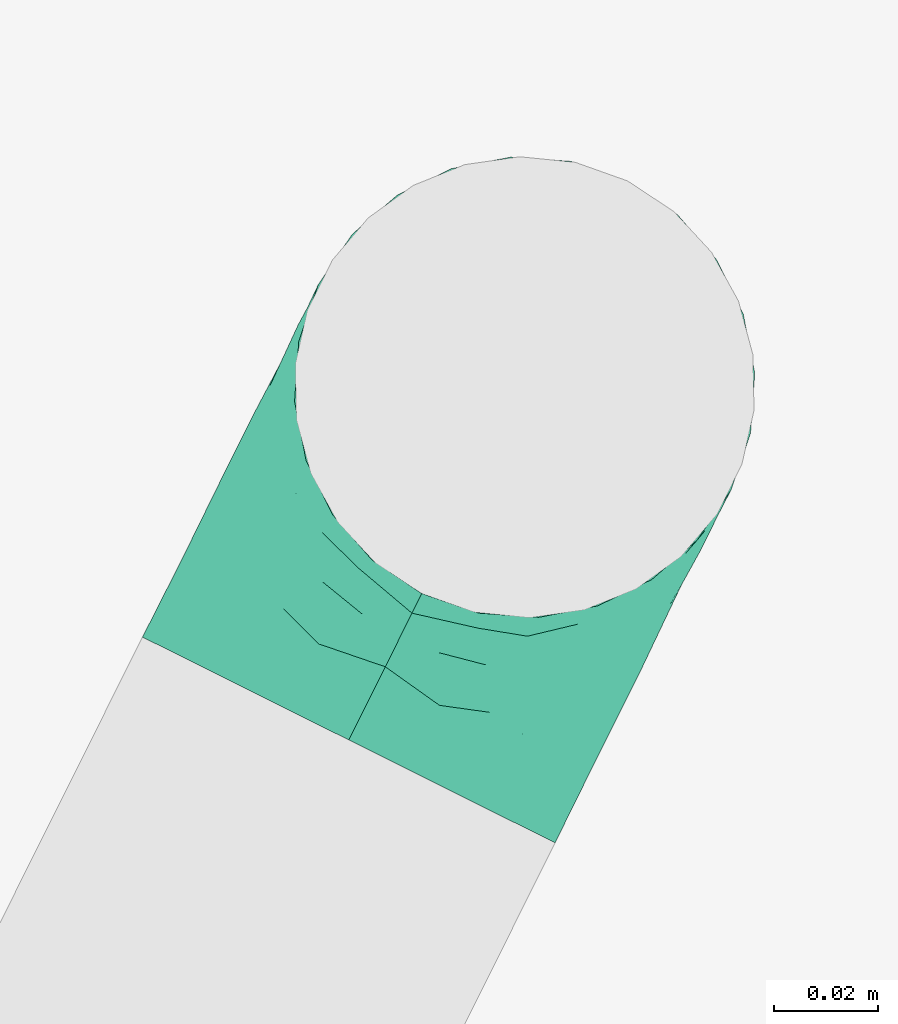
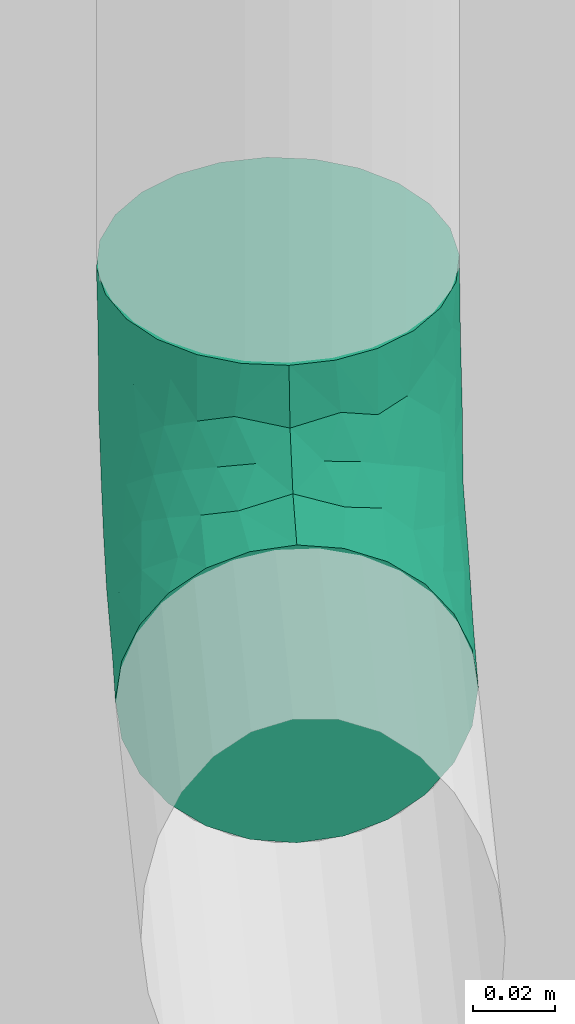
# One storey, part 36 of 47: 1 flow fitting.
"""IFC2X3 building model written with IfcOpenShell, lengths in metres."""

from ifc_helpers import new_model, entity, si_unit, converted_unit, derived_unit, direction, frame, origin, place, context, subcontext, project, spatial, faceted_brep, source, transform, mapped, type_object, type_shapes, element, save


model = new_model("IFC2X3")

# Units and contexts
model_context = context("Model", 3, precision=1e-05, world=origin(), true_north=direction((0.894925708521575, 0.446215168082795)))
context_of_model = context(None, 3, precision=1e-05, world=origin(), true_north=direction((0.894925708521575, 0.446215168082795)))
body_context = subcontext(model_context, "Body", "Model", "MODEL_VIEW")
ifc_project = project(units=[si_unit("LENGTHUNIT", "METRE"), si_unit("AREAUNIT", "SQUARE_METRE"), si_unit("VOLUMEUNIT", "CUBIC_METRE"), converted_unit("PLANEANGLEUNIT", "DEGREE", entity("IfcRatioMeasure", 0.0174532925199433), si_unit("PLANEANGLEUNIT", "RADIAN"), dimensions=[0, 0, 0, 0, 0, 0, 0]), si_unit("MASSUNIT", "GRAM", prefix="KILO"), si_unit("TIMEUNIT", "SECOND"), si_unit("FREQUENCYUNIT", "HERTZ"), si_unit("THERMODYNAMICTEMPERATUREUNIT", "DEGREE_CELSIUS"), derived_unit("THERMALTRANSMITTANCEUNIT", [(si_unit("MASSUNIT", "GRAM", prefix="KILO"), 1), (si_unit("THERMODYNAMICTEMPERATUREUNIT", "KELVIN"), -1), (si_unit("TIMEUNIT", "SECOND"), -3)]), derived_unit("VOLUMETRICFLOWRATEUNIT", [(si_unit("LENGTHUNIT", "METRE"), 3), (si_unit("TIMEUNIT", "SECOND"), -1)]), si_unit("ELECTRICCURRENTUNIT", "AMPERE"), si_unit("ELECTRICVOLTAGEUNIT", "VOLT"), si_unit("POWERUNIT", "WATT"), si_unit("FORCEUNIT", "NEWTON", prefix="KILO"), si_unit("ILLUMINANCEUNIT", "LUX"), si_unit("LUMINOUSFLUXUNIT", "LUMEN"), si_unit("LUMINOUSINTENSITYUNIT", "CANDELA"), si_unit("PRESSUREUNIT", "PASCAL")], contexts=[model_context, context_of_model])

# Site, building, storey
site_placement = place(None, frame((218.228324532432, 584.720189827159, 0.0), z_axis=(0.0, 0.0, 1.0), x_axis=(0.446215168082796, 0.894925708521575, 0.0)))
site = spatial("IfcSite", under=ifc_project, at=site_placement, Name="Default", CompositionType="ELEMENT")
building_placement = place(site_placement, origin())
building = spatial("IfcBuilding", under=site, at=building_placement, CompositionType="ELEMENT")
storey_placement = place(building_placement, frame((0.0, 0.0, 4.69)))
storey = spatial("IfcBuildingStorey", under=building, at=storey_placement, Name="1 - Piano Primo", CompositionType="ELEMENT", Elevation=4.69)

# Flow fitting
pipe_fitting_type = type_object("IfcPipeFittingType", Name="Standard", PredefinedType="NOTDEFINED")
shared_shape = source(origin(), body_context, "Body", "Brep", [
    faceted_brep([(-0.0759999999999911, 0.0222249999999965, -0.0384948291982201), (-0.0759999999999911, 0.0115045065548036, -0.0429354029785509), (-0.0759999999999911, 0.0, -0.0444500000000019), (-0.0759999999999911, -0.0115045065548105, -0.042935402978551), (-0.075999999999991, -0.0222250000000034, -0.0384948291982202), (-0.075999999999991, -0.0314308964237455, -0.031430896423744), (-0.075999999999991, -0.0384948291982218, -0.022225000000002), (-0.075999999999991, -0.0429354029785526, -0.011504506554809), (-0.075999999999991, -0.0444500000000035, 0.0), (-0.075999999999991, -0.0429354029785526, 0.011504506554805), (-0.075999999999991, -0.0384948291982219, 0.022224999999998), (-0.075999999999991, -0.0314308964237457, 0.0314308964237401), (-0.075999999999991, -0.0222250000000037, 0.0384948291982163), (-0.0759999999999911, -0.0115045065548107, 0.0429354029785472), (-0.0759999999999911, 0.0, 0.0444499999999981), (-0.0759999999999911, 0.0115045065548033, 0.0429354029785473), (-0.0759999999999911, 0.0222249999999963, 0.0384948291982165), (-0.0759999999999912, 0.0314308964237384, 0.0314308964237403), (-0.0759999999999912, 0.0384948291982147, 0.0222249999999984), (-0.0759999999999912, 0.0429354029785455, 0.0115045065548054), (-0.0759999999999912, 0.0444499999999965, 0.0), (-0.0759999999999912, 0.0429354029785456, -0.0115045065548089), (-0.0759999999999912, 0.0384948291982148, -0.0222250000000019), (-0.0759999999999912, 0.0314308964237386, -0.0314308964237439), (0.0, 0.0759999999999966, -0.0444500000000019), (-0.0115045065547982, 0.0759999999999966, -0.0429354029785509), (-0.0222249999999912, 0.0759999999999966, -0.0384948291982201), (-0.0314308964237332, 0.0759999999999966, -0.0314308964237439), (-0.0384948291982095, 0.0759999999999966, -0.0222250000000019), (-0.0429354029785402, 0.0759999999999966, -0.0115045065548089), (-0.0444499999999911, 0.0759999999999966, 0.0), (-0.0429354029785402, 0.0759999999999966, 0.0115045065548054), (-0.0384948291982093, 0.0759999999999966, 0.0222249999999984), (-0.031430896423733, 0.0759999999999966, 0.0314308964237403), (-0.0222249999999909, 0.0759999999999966, 0.0384948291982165), (-0.011504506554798, 0.0759999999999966, 0.0429354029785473), (0.0, 0.0759999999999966, 0.0444499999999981), (0.0115045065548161, 0.0759999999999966, 0.0429354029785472), (0.022225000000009, 0.0759999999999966, 0.0384948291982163), (0.031430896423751, 0.0759999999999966, 0.0314308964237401), (0.0384948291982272, 0.0759999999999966, 0.022224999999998), (0.042935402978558, 0.0759999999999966, 0.011504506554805), (0.0444500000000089, 0.0759999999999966, 0.0), (0.0429354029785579, 0.0759999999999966, -0.011504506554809), (0.0384948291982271, 0.0759999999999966, -0.022225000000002), (0.0314308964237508, 0.0759999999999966, -0.031430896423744), (0.0222250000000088, 0.0759999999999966, -0.0384948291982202), (0.0115045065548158, 0.0759999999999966, -0.042935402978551), (-0.055251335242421, -0.0350999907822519, 0.0246019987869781), (-0.0387789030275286, -0.0385547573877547, 0.0), (-0.0513960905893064, -0.0397481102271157, 0.0135506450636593), (-0.0541387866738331, -0.0409875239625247, 0.0), (0.0164280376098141, 0.018681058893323, 0.0300447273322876), (0.0133440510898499, 0.00595972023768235, 0.0238254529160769), (0.0227502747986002, 0.0181678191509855, 0.0223222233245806), (-0.0566160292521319, 0.00529376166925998, 0.0443688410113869), (-0.0518504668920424, 0.0178853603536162, 0.0424858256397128), (-0.0658426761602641, 0.0162370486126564, 0.0417044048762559), (0.00670599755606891, 0.0058076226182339, 0.0303487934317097), (0.00217280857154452, -0.00488037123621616, 0.0253915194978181), (0.0217662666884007, 0.0334721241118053, 0.0322256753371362), (0.0133779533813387, 0.0277507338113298, 0.0363591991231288), (-0.0489098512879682, -0.0265635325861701, 0.0327252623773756), (-0.0551815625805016, -0.0175181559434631, 0.0397928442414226), (-0.0321967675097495, -0.0350744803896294, 0.0096061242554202), (-0.0219900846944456, -0.0300004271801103, 0.0), (-0.0380359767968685, 0.0129504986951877, 0.0443849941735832), (-0.0499161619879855, 0.0304962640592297, 0.0376985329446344), (-0.0641975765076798, 0.0266916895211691, 0.0365481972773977), (-0.0267918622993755, 0.0407735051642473, 0.0416664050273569), (-0.0178853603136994, 0.0518504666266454, 0.0424858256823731), (-0.0304962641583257, 0.0499161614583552, 0.0376985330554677), (-0.0162370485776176, 0.0658426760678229, 0.0417044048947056), (-0.00529376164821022, 0.0566160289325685, 0.0443688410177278), (-0.060002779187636, 0.0363683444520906, 0.0294868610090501), (-0.0571942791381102, -0.00652591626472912, 0.0436019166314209), (-0.0131742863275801, -0.0091104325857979, 0.0329931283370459), (-0.0104548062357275, -0.0146502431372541, 0.0262592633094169), (-0.0363683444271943, 0.060002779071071, 0.0294868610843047), (-0.0266916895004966, 0.0641975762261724, 0.036548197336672), (-0.0591167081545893, 0.0427163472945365, 0.0219026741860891), (-0.0130572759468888, 0.0374829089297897, 0.0443951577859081), (-0.0283996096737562, 0.02839960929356, 0.0435936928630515), (-0.0206947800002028, 0.0157137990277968, 0.0440684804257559), (-0.0622162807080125, 0.0455810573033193, 0.0126773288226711), (-0.0512634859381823, 0.0512634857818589, 0.0171284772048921), (-0.0440264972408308, 0.0440264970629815, 0.032066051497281), (-0.0427163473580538, 0.0591167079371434, 0.0219026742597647), (-0.0484175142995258, 0.0479614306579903, 0.0251239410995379), (0.0175181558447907, 0.0551815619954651, 0.0397928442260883), (0.0265635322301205, 0.0489098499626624, 0.0327252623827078), (-0.0531667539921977, 0.0531667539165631, 0.00808290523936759), (0.0397481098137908, 0.0513960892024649, 0.0135506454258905), (0.0350999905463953, 0.0552513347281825, 0.0246019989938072), (0.0300990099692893, 0.0319822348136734, 0.0215664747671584), (0.00652591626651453, 0.0571942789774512, 0.0436019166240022), (-0.0360375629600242, -0.00228367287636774, 0.0428291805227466), (0.0409875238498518, 0.0541387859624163, 0.0), (-0.00769711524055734, 0.023069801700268, 0.0432135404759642), (-0.0161281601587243, 0.00441100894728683, 0.0409345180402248), (-0.000438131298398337, 0.0181073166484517, 0.0400941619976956), (0.0300004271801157, 0.0219900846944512, 0.0), (0.0350744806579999, 0.0321967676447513, 0.00960612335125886), (0.0263186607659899, 0.0155052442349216, 0.0117666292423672), (-0.0291179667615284, -0.0225220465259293, 0.0296592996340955), (-0.0277507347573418, -0.0133779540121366, 0.0363591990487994), (-0.0602249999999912, 0.0486768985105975, 0.0), (-0.0486768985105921, 0.0602249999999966, 0.0), (-0.0455810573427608, 0.0622162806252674, 0.0126773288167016), (-0.0407466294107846, 0.0268307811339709, 0.0416604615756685), (-0.0377601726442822, 0.0377601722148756, 0.0386689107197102), (-0.00520126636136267, -0.0214460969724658, 0.0), (-0.0155052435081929, -0.0263186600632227, 0.0117666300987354), (-0.0319822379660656, -0.0300990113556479, 0.0215664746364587), (0.00228367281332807, 0.0360375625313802, 0.0428291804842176), (0.0214460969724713, 0.00520126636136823, 0.0), (0.0160594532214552, -0.000115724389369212, 0.00937076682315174), (0.00329314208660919, -0.0118779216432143, 0.0134585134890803), (0.0186652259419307, 0.00689538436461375, 0.0166724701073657), (0.0385547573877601, 0.0387789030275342, 0.0), (-0.00882562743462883, -0.0191172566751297, 0.0184368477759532), (0.00812241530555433, -0.00812241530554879, 0.0), (-0.00308956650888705, 0.00308956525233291, 0.0352249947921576), (0.00665750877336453, 0.014449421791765, 0.0352664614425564), (-0.0663119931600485, 0.0352211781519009, -0.0285295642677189), (0.0356416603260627, 0.063567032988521, -0.0256086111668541), (-0.0597195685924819, 0.00503106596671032, -0.0443355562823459), (-0.0428757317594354, 0.0435409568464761, -0.0331401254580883), (-0.0472933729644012, 0.0477547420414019, -0.0264450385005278), (-0.0380854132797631, 0.0547099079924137, -0.0303060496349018), (-0.0408534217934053, 0.00868227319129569, -0.0444499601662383), (-0.0550040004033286, 0.0172386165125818, -0.0423182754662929), (-0.0619986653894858, 0.0454344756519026, -0.0134059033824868), (-0.0424796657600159, 0.058945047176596, -0.0224049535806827), (-0.0530961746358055, 0.0530961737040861, -0.008605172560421), (-0.005031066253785, 0.0597195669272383, -0.0443355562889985), (-0.0172386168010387, 0.0550039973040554, -0.0423182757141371), (-0.0453499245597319, 0.0261375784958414, -0.0408727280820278), (-0.0597445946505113, 0.0272482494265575, -0.0370157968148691), (-0.0484821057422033, 0.0337753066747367, -0.0363378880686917), (-0.0108421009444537, 0.0108420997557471, -0.0414134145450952), (0.00292359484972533, 0.0313950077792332, -0.0419642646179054), (0.00576470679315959, 0.015577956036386, -0.036290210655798), (-0.0239048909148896, 0.00889487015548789, -0.0435390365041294), (-0.0280822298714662, 0.0165780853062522, -0.0444487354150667), (-0.0155353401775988, 0.0222215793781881, -0.0441768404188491), (-0.0548671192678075, -0.0402641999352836, -0.0140556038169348), (-0.0635670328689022, -0.035641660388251, -0.0256086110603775), (-0.0468237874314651, -0.0338951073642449, -0.0235445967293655), (-0.0542773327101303, -0.0272310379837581, -0.0332571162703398), (-0.0295224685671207, -0.0279582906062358, -0.0232657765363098), (0.0206432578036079, 0.026645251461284, -0.0303065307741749), (0.0272310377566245, 0.0542773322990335, -0.0332571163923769), (0.0338951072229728, 0.0468237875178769, -0.0235445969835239), (-0.063773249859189, -0.0178670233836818, -0.0403436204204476), (-0.0454344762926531, 0.0619986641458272, -0.0134059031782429), (-0.0509858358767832, 0.0509858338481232, -0.018040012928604), (-0.0266452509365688, -0.0206432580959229, -0.0303065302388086), (0.0402641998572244, 0.0548671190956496, -0.0140556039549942), (0.033135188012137, 0.0290265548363, -0.0119449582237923), (-0.0471571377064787, -0.0164855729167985, -0.0392413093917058), (-0.0554032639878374, -0.00637620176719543, -0.0435474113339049), (-0.031395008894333, -0.00292359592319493, -0.0419642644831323), (-0.0589796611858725, 0.0424071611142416, -0.0224886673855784), (-0.0283863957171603, -0.0127648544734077, -0.0369364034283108), (-0.0110970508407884, -0.00438905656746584, -0.0350639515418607), (-0.0353996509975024, -0.0349521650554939, -0.0141213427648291), (-0.0539297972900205, 0.0384008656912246, -0.0304288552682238), (-0.0272482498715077, 0.0597445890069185, -0.0370157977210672), (0.0063762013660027, 0.0554032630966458, -0.0435474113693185), (0.0178670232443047, 0.0637732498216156, -0.0403436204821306), (-0.0130026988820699, -0.0185218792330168, -0.0237207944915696), (0.00307688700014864, -0.0126882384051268, -0.0119183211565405), (-0.0178636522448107, -0.0261829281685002, -0.0157567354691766), (0.01648557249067, 0.0471571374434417, -0.0392413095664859), (-0.0351708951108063, 0.0668051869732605, -0.0284550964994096), (-0.0143062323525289, -0.0267882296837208, -0.00708720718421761), (-0.0367961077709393, 0.036796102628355, -0.0394106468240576), (-0.0263944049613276, 0.0276845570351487, -0.0439339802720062), (0.0115291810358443, 0.0308300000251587, -0.0383364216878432), (0.0277415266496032, 0.0267890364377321, -0.0216489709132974), (-0.00868227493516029, 0.040853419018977, -0.0444499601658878), (-0.0263216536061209, 0.0459443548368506, -0.0406700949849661), (-0.0192830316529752, 0.0407360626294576, -0.0434845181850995), (-0.0337233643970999, 0.049471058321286, -0.0359883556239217), (-0.0405538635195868, 0.018597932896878, -0.0436227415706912), (0.00798111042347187, 0.00716693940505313, -0.0302321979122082), (0.0176308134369, 0.0122534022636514, -0.0242211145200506), (0.00408183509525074, -0.00408183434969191, -0.0242493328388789), (0.0197800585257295, 0.00739832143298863, -0.0150810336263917)], [[[0, 1, 2, 3, 4, 5, 6, 7, 8, 9, 10, 11, 12, 13, 14, 15, 16, 17, 18, 19, 20, 21, 22, 23]], [[24, 25, 26, 27, 28, 29, 30, 31, 32, 33, 34, 35, 36, 37, 38, 39, 40, 41, 42, 43, 44, 45, 46, 47]], [[10, 48, 11]], [[49, 50, 51]], [[52, 53, 54]], [[9, 50, 10]], [[9, 51, 50]], [[55, 56, 57]], [[48, 10, 50]], [[58, 59, 53]], [[60, 61, 52]], [[62, 12, 11]], [[62, 63, 12]], [[64, 49, 65]], [[56, 55, 66]], [[56, 67, 68]], [[69, 70, 71]], [[16, 15, 57]], [[35, 72, 73]], [[74, 18, 17]], [[75, 14, 13]], [[76, 77, 59]], [[78, 71, 79]], [[74, 80, 18]], [[81, 82, 83]], [[20, 19, 84]], [[85, 84, 80]], [[70, 81, 73]], [[86, 74, 67]], [[87, 88, 78]], [[38, 89, 90]], [[85, 91, 84]], [[92, 93, 94]], [[17, 16, 68]], [[93, 40, 39]], [[36, 95, 37]], [[96, 66, 55]], [[36, 35, 73]], [[90, 39, 38]], [[92, 97, 41]], [[98, 99, 100]], [[93, 92, 40]], [[31, 87, 32]], [[92, 41, 40]], [[71, 78, 86]], [[101, 102, 103]], [[104, 105, 62]], [[106, 91, 107]], [[96, 63, 105]], [[107, 108, 30]], [[109, 69, 110]], [[107, 91, 108]], [[111, 112, 65]], [[32, 78, 33]], [[89, 38, 37]], [[31, 108, 87]], [[89, 61, 60]], [[79, 34, 33]], [[72, 35, 34]], [[12, 63, 13]], [[113, 62, 48]], [[103, 102, 94]], [[80, 88, 85]], [[15, 14, 55]], [[70, 69, 81]], [[95, 73, 114]], [[75, 55, 14]], [[96, 83, 66]], [[105, 63, 62]], [[75, 63, 96]], [[104, 62, 113]], [[105, 76, 99]], [[95, 89, 37]], [[61, 89, 114]], [[100, 61, 114]], [[58, 53, 52]], [[86, 67, 110]], [[70, 72, 79]], [[74, 17, 68]], [[109, 82, 69]], [[113, 48, 50]], [[62, 11, 48]], [[39, 90, 93]], [[94, 93, 90]], [[64, 113, 50]], [[115, 103, 116]], [[53, 59, 117]], [[53, 118, 54]], [[73, 95, 36]], [[89, 95, 114]], [[63, 75, 13]], [[55, 75, 96]], [[106, 20, 84]], [[108, 91, 85]], [[106, 84, 91]], [[80, 19, 18]], [[80, 84, 19]], [[88, 74, 86]], [[108, 85, 87]], [[108, 31, 30]], [[87, 85, 88]], [[32, 87, 78]], [[82, 109, 66]], [[114, 73, 81]], [[99, 83, 96]], [[81, 83, 98]], [[9, 8, 51]], [[97, 92, 119]], [[97, 42, 41]], [[82, 66, 83]], [[120, 113, 112]], [[117, 121, 116]], [[74, 88, 80]], [[88, 86, 78]], [[65, 112, 64]], [[111, 117, 112]], [[120, 112, 117]], [[101, 103, 115]], [[92, 102, 119]], [[118, 117, 116]], [[113, 64, 112]], [[49, 64, 50]], [[119, 102, 101]], [[94, 102, 92]], [[105, 99, 96]], [[100, 99, 122]], [[100, 122, 123]], [[98, 100, 114]], [[78, 79, 33]], [[70, 79, 71]], [[68, 16, 57]], [[74, 68, 67]], [[81, 98, 114]], [[99, 98, 83]], [[118, 116, 103]], [[54, 103, 94]], [[121, 117, 111]], [[121, 115, 116]], [[117, 118, 53]], [[103, 54, 118]], [[90, 60, 94]], [[54, 94, 60]], [[58, 123, 122]], [[123, 52, 61]], [[76, 59, 58]], [[76, 58, 122]], [[59, 77, 120]], [[52, 123, 58]], [[100, 123, 61]], [[60, 52, 54]], [[89, 60, 90]], [[79, 72, 34]], [[73, 72, 70]], [[55, 57, 15]], [[68, 57, 56]], [[113, 77, 104]], [[76, 104, 77]], [[110, 69, 71]], [[81, 69, 82]], [[86, 110, 71]], [[110, 67, 109]], [[67, 56, 109]], [[66, 109, 56]], [[99, 76, 122]], [[104, 76, 105]], [[59, 120, 117]], [[113, 120, 77]], [[22, 124, 23]], [[45, 44, 125]], [[1, 126, 2]], [[127, 128, 129]], [[130, 126, 131]], [[131, 1, 0]], [[106, 132, 20]], [[129, 128, 133]], [[132, 106, 134]], [[25, 135, 136]], [[137, 138, 139]], [[140, 141, 142]], [[143, 144, 145]], [[138, 131, 0]], [[146, 6, 147]], [[148, 149, 150]], [[146, 51, 7]], [[151, 152, 153]], [[149, 5, 4]], [[0, 23, 138]], [[154, 149, 4]], [[155, 133, 156]], [[6, 146, 7]], [[147, 6, 5]], [[150, 149, 157]], [[154, 4, 3]], [[158, 44, 43]], [[153, 158, 159]], [[106, 107, 134]], [[125, 152, 45]], [[30, 29, 155]], [[160, 161, 162]], [[132, 163, 21]], [[164, 162, 165]], [[146, 148, 166]], [[128, 127, 167]], [[168, 27, 26]], [[46, 45, 152]], [[169, 47, 170]], [[171, 172, 173]], [[152, 174, 170]], [[24, 135, 25]], [[28, 27, 175]], [[47, 46, 170]], [[176, 172, 111]], [[137, 177, 178]], [[142, 141, 179]], [[153, 159, 180]], [[141, 181, 169]], [[161, 160, 154]], [[153, 125, 158]], [[47, 169, 24]], [[158, 97, 119]], [[26, 136, 168]], [[161, 3, 2]], [[151, 174, 152]], [[156, 163, 132]], [[25, 136, 26]], [[182, 183, 178]], [[134, 155, 156]], [[127, 129, 184]], [[131, 137, 185]], [[141, 169, 174]], [[135, 169, 181]], [[179, 151, 142]], [[141, 140, 145]], [[158, 43, 97]], [[159, 158, 119]], [[115, 159, 119, 101]], [[157, 149, 160]], [[147, 149, 148]], [[126, 161, 2]], [[145, 140, 143]], [[130, 162, 161]], [[162, 140, 165]], [[150, 171, 173]], [[65, 176, 111]], [[142, 165, 140]], [[153, 180, 151]], [[148, 150, 166]], [[43, 42, 97]], [[107, 30, 155]], [[132, 134, 156]], [[124, 138, 23]], [[167, 127, 139]], [[184, 182, 177]], [[175, 168, 129]], [[186, 151, 187]], [[188, 171, 165]], [[165, 142, 186]], [[165, 157, 164]], [[107, 155, 134]], [[133, 29, 28]], [[29, 133, 155]], [[175, 133, 28]], [[128, 163, 156]], [[132, 21, 20]], [[124, 163, 167]], [[21, 163, 22]], [[163, 128, 167]], [[156, 133, 128]], [[51, 146, 49]], [[51, 8, 7]], [[184, 129, 168]], [[167, 139, 138]], [[127, 177, 139]], [[137, 139, 177]], [[178, 177, 182]], [[138, 137, 131]], [[145, 178, 181]], [[131, 185, 130]], [[137, 178, 185]], [[144, 185, 178]], [[182, 168, 136]], [[177, 127, 184]], [[168, 182, 184]], [[182, 136, 183]], [[136, 181, 183]], [[181, 178, 183]], [[131, 126, 1]], [[161, 126, 130]], [[169, 135, 24]], [[136, 135, 181]], [[176, 166, 173]], [[49, 146, 166]], [[189, 172, 188]], [[49, 166, 65]], [[189, 121, 172]], [[180, 187, 151]], [[189, 159, 115]], [[141, 145, 181]], [[140, 162, 143]], [[166, 176, 65]], [[172, 176, 173]], [[162, 130, 143]], [[144, 143, 130]], [[185, 144, 130]], [[178, 145, 144]], [[163, 124, 22]], [[138, 124, 167]], [[152, 170, 46]], [[169, 170, 174]], [[158, 125, 44]], [[152, 125, 153]], [[161, 154, 3]], [[149, 154, 160]], [[149, 147, 5]], [[146, 147, 148]], [[168, 175, 27]], [[133, 175, 129]], [[159, 189, 180]], [[187, 180, 189]], [[189, 188, 187]], [[186, 187, 188]], [[165, 186, 188]], [[151, 186, 142]], [[171, 150, 157]], [[166, 150, 173]], [[165, 171, 157]], [[172, 171, 188]], [[141, 174, 179]], [[151, 179, 174]], [[157, 160, 164]], [[162, 164, 160]], [[121, 189, 115]], [[121, 111, 172]]]),
])
type_shapes(pipe_fitting_type, [shared_shape])
flow_fitting_placement = place(storey_placement, frame((66.8943927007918, -2.27361948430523, 3.15999999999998), z_axis=(0.0, -1.0, 0.0), x_axis=(1.0, 0.0, 0.0)))
element("IfcFlowFitting", 1, at=flow_fitting_placement, inside=storey, type_object=pipe_fitting_type, Name="M_Gomito - Saldato - Generico:Standard", ObjectType="Standard", context=body_context, shape_type="MappedRepresentation", body=[
    mapped(shared_shape, transform((0.0, 0.0, 0.0), scale=1.0)),
])

save(model, "model.ifc")
